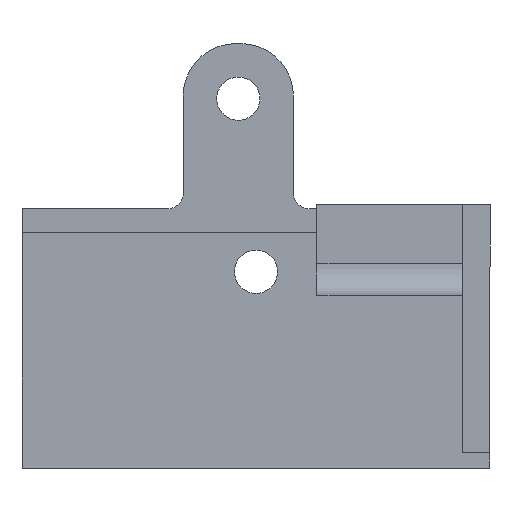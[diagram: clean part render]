
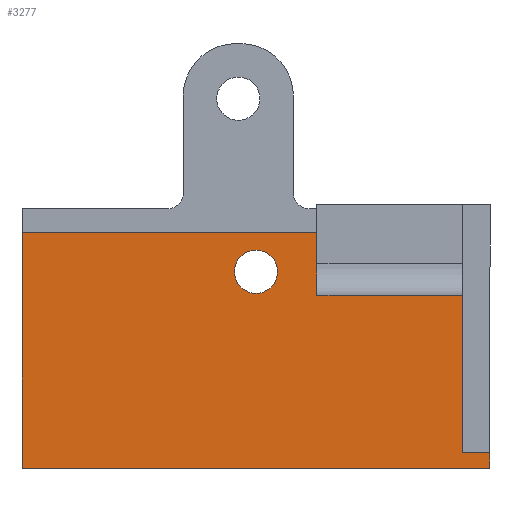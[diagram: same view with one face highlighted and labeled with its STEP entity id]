
A CAD part, front view. The second image highlights one B-rep face of the part: STEP entity #3277.
In plain terms, the highlighted planar face has unit normal (0, -1, 0).
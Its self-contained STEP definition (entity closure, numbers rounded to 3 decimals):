
#83 = EDGE_LOOP ( 'NONE', ( #874, #875 ) ) ;
#290 = EDGE_LOOP ( 'NONE', ( #877, #876, #878, #880, #879, #881, #883, #882 ) ) ;
#874 = ORIENTED_EDGE ( 'NONE', *, *, #5481, .T. ) ;
#875 = ORIENTED_EDGE ( 'NONE', *, *, #5372, .T. ) ;
#876 = ORIENTED_EDGE ( 'NONE', *, *, #5486, .T. ) ;
#877 = ORIENTED_EDGE ( 'NONE', *, *, #5480, .F. ) ;
#878 = ORIENTED_EDGE ( 'NONE', *, *, #5538, .F. ) ;
#879 = ORIENTED_EDGE ( 'NONE', *, *, #5478, .F. ) ;
#880 = ORIENTED_EDGE ( 'NONE', *, *, #5479, .F. ) ;
#881 = ORIENTED_EDGE ( 'NONE', *, *, #5291, .T. ) ;
#882 = ORIENTED_EDGE ( 'NONE', *, *, #5476, .F. ) ;
#883 = ORIENTED_EDGE ( 'NONE', *, *, #5477, .T. ) ;
#1531 = CIRCLE ( 'NONE', #2472, 1.375 ) ;
#1613 = VECTOR ( 'NONE', #6676, 1000. ) ;
#1658 = LINE ( 'NONE', #6677, #1703 ) ;
#1700 = LINE ( 'NONE', #6679, #1702 ) ;
#1702 = VECTOR ( 'NONE', #6680, 1000. ) ;
#1703 = VECTOR ( 'NONE', #6678, 1000. ) ;
#1715 = LINE ( 'NONE', #6675, #1613 ) ;
#1716 = LINE ( 'NONE', #6681, #1884 ) ;
#1872 = VECTOR ( 'NONE', #6698, 1000. ) ;
#1873 = LINE ( 'NONE', #6697, #1872 ) ;
#1881 = CIRCLE ( 'NONE', #2485, 1.375 ) ;
#1882 = VECTOR ( 'NONE', #6684, 1000. ) ;
#1883 = LINE ( 'NONE', #6683, #1882 ) ;
#1884 = VECTOR ( 'NONE', #6682, 1000. ) ;
#1957 = LINE ( 'NONE', #4843, #1959 ) ;
#1959 = VECTOR ( 'NONE', #4844, 1000. ) ;
#2093 = CARTESIAN_POINT ( 'NONE',  ( 0., 0., 11. ) ) ;
#2094 = DIRECTION ( 'NONE',  ( 0., 0., -1. ) ) ;
#2361 = AXIS2_PLACEMENT_3D ( 'NONE', #6335, #6336, #6337 ) ;
#2472 = AXIS2_PLACEMENT_3D ( 'NONE', #6454, #6455, #6456 ) ;
#2485 = AXIS2_PLACEMENT_3D ( 'NONE', #6685, #6686, #6687 ) ;
#3277 = ADVANCED_FACE ( 'NONE', ( #3734, #3735 ), #6334, .F. ) ;
#3509 = LINE ( 'NONE', #2093, #3510 ) ;
#3510 = VECTOR ( 'NONE', #2094, 1000. ) ;
#3734 = FACE_BOUND ( 'NONE', #83, .T. ) ;
#3735 = FACE_OUTER_BOUND ( 'NONE', #290, .T. ) ;
#4843 = CARTESIAN_POINT ( 'NONE',  ( 0., 0., 11. ) ) ;
#4844 = DIRECTION ( 'NONE',  ( 1., 0., 0. ) ) ;
#5291 = EDGE_CURVE ( 'NONE', #5864, #5961, #3509, .T. ) ;
#5372 = EDGE_CURVE ( 'NONE', #6172, #6192, #1531, .T. ) ;
#5476 = EDGE_CURVE ( 'NONE', #6231, #6189, #1715, .T. ) ;
#5477 = EDGE_CURVE ( 'NONE', #5961, #6189, #1658, .T. ) ;
#5478 = EDGE_CURVE ( 'NONE', #5864, #6185, #1700, .T. ) ;
#5479 = EDGE_CURVE ( 'NONE', #6185, #5896, #1716, .T. ) ;
#5480 = EDGE_CURVE ( 'NONE', #6223, #6231, #1883, .T. ) ;
#5481 = EDGE_CURVE ( 'NONE', #6192, #6172, #1881, .T. ) ;
#5486 = EDGE_CURVE ( 'NONE', #6223, #5905, #1873, .T. ) ;
#5538 = EDGE_CURVE ( 'NONE', #5896, #5905, #1957, .T. ) ;
#5864 = VERTEX_POINT ( 'NONE', #6789 ) ;
#5896 = VERTEX_POINT ( 'NONE', #6821 ) ;
#5905 = VERTEX_POINT ( 'NONE', #6830 ) ;
#5961 = VERTEX_POINT ( 'NONE', #6860 ) ;
#6172 = VERTEX_POINT ( 'NONE', #6983 ) ;
#6185 = VERTEX_POINT ( 'NONE', #6996 ) ;
#6189 = VERTEX_POINT ( 'NONE', #7000 ) ;
#6192 = VERTEX_POINT ( 'NONE', #7003 ) ;
#6223 = VERTEX_POINT ( 'NONE', #7034 ) ;
#6231 = VERTEX_POINT ( 'NONE', #7042 ) ;
#6334 = PLANE ( 'NONE',  #2361 ) ;
#6335 = CARTESIAN_POINT ( 'NONE',  ( 0., 0., 11. ) ) ;
#6336 = DIRECTION ( 'NONE',  ( 0., 1., 0. ) ) ;
#6337 = DIRECTION ( 'NONE',  ( 0., 0., 1. ) ) ;
#6454 = CARTESIAN_POINT ( 'NONE',  ( 14.875, 0., 12.5 ) ) ;
#6455 = DIRECTION ( 'NONE',  ( 0., 1., 0. ) ) ;
#6456 = DIRECTION ( 'NONE',  ( 0., 0., 1. ) ) ;
#6675 = CARTESIAN_POINT ( 'NONE',  ( 29.75, 0., 11. ) ) ;
#6676 = DIRECTION ( 'NONE',  ( 0., 0., -1. ) ) ;
#6677 = CARTESIAN_POINT ( 'NONE',  ( 0., 0., 0. ) ) ;
#6678 = DIRECTION ( 'NONE',  ( 1., 0., 0. ) ) ;
#6679 = CARTESIAN_POINT ( 'NONE',  ( 0., 0., 15. ) ) ;
#6680 = DIRECTION ( 'NONE',  ( 1., 0., 0. ) ) ;
#6681 = CARTESIAN_POINT ( 'NONE',  ( 18.75, 0., 15. ) ) ;
#6682 = DIRECTION ( 'NONE',  ( 0., 0., -1. ) ) ;
#6683 = CARTESIAN_POINT ( 'NONE',  ( 28., 0., 1. ) ) ;
#6684 = DIRECTION ( 'NONE',  ( 1., 0., 0. ) ) ;
#6685 = CARTESIAN_POINT ( 'NONE',  ( 14.875, 0., 12.5 ) ) ;
#6686 = DIRECTION ( 'NONE',  ( 0., 1., 0. ) ) ;
#6687 = DIRECTION ( 'NONE',  ( 0., 0., 1. ) ) ;
#6697 = CARTESIAN_POINT ( 'NONE',  ( 28., 0., 1. ) ) ;
#6698 = DIRECTION ( 'NONE',  ( 0., 0., 1. ) ) ;
#6789 = CARTESIAN_POINT ( 'NONE',  ( 0., 0., 15. ) ) ;
#6821 = CARTESIAN_POINT ( 'NONE',  ( 18.75, 0., 11. ) ) ;
#6830 = CARTESIAN_POINT ( 'NONE',  ( 28., 0., 11. ) ) ;
#6860 = CARTESIAN_POINT ( 'NONE',  ( 0., 0., 0. ) ) ;
#6983 = CARTESIAN_POINT ( 'NONE',  ( 14.875, 0., 11.125 ) ) ;
#6996 = CARTESIAN_POINT ( 'NONE',  ( 18.75, 0., 15. ) ) ;
#7000 = CARTESIAN_POINT ( 'NONE',  ( 29.75, 0., 0. ) ) ;
#7003 = CARTESIAN_POINT ( 'NONE',  ( 14.875, 0., 13.875 ) ) ;
#7034 = CARTESIAN_POINT ( 'NONE',  ( 28., 0., 1. ) ) ;
#7042 = CARTESIAN_POINT ( 'NONE',  ( 29.75, 0., 1. ) ) ;
